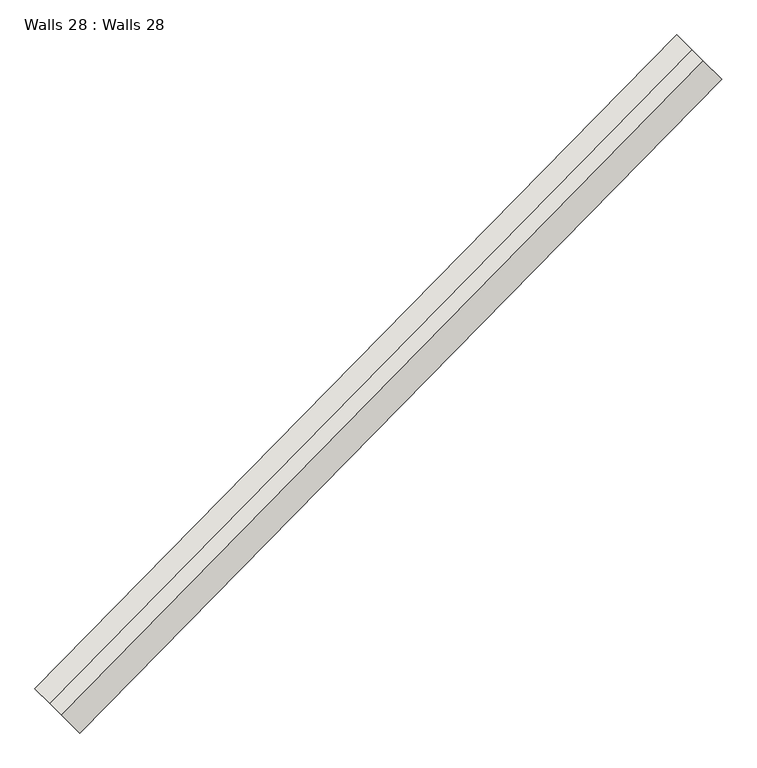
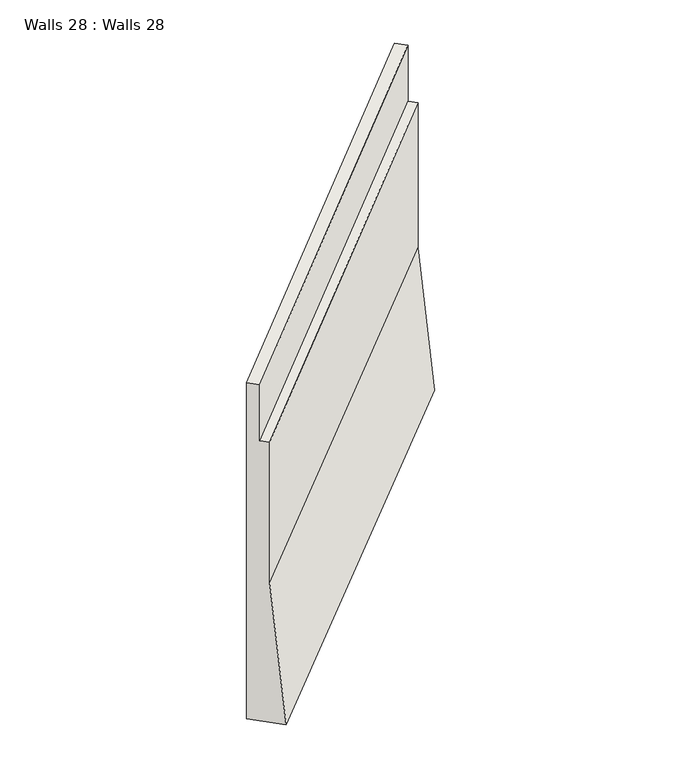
"""IFC4 building model written with IfcOpenShell, lengths in millimetres: wall geometry, Walls 28 : Walls 28."""

from ifc_helpers import new_model, si_unit, origin, place, context, project, spatial, faceted_brep, source, transform, mapped, element, save


def walls_28_walls_28_15dd980c(model_context):
    return source(origin(), model_context, "Body", "Brep", [
        faceted_brep([(-220892.5621054, -381293.211265, 635610.0), (-221070.98858, -381118.0963011, 638110.0), (-221070.98858, -381118.0963011, 640620.0), (-221178.0431537, -381013.0286094, 640620.0), (-221178.0431537, -381013.0286094, 641620.0), (-221320.7825854, -380872.9383538, 641620.0), (-221320.7825854, -380872.9383538, 635610.0), (-214798.6226613, -375084.0324096, 635700.0), (-215226.8431413, -374663.7594985, 635700.0), (-215226.8431413, -374663.7594985, 641800.0), (-215084.1037096, -374803.849754, 641800.0), (-215084.1037096, -374803.849754, 640800.0), (-214977.0491359, -374908.9174457, 640800.0), (-214977.0491359, -374908.9174457, 638200.0)], [[[0, 1, 2, 3, 4, 5, 6]], [[7, 8, 9, 10, 11, 12, 13]], [[7, 13, 1, 0]], [[13, 12, 2, 1]], [[12, 11, 3, 2]], [[11, 10, 4, 3]], [[10, 9, 5, 4]], [[9, 8, 6, 5]], [[8, 7, 0, 6]]]),
    ])


if __name__ == "__main__":
    model = new_model("IFC4")
    model_context = context("Model", 3, world=origin())
    ifc_project = project(units=[si_unit("LENGTHUNIT", "METRE", prefix="MILLI")], contexts=[model_context])
    site = spatial("IfcSite", under=ifc_project)
    building = spatial("IfcBuilding", under=site)
    placement = place(None, origin())
    walls_28_walls_28_shape = walls_28_walls_28_15dd980c(model_context)
    element("IfcWall", 1, ObjectType="Walls 28 : Walls 28", at=placement, inside=building, context=model_context, shape_type="MappedRepresentation", body=[
        mapped(walls_28_walls_28_shape, transform((0.0, 0.0, 0.0), x_axis=(1.0, 0.0, 0.0), y_axis=(0.0, 1.0, 0.0), z_axis=(0.0, 0.0, 1.0))),
    ])
    save(model, "model.ifc")
